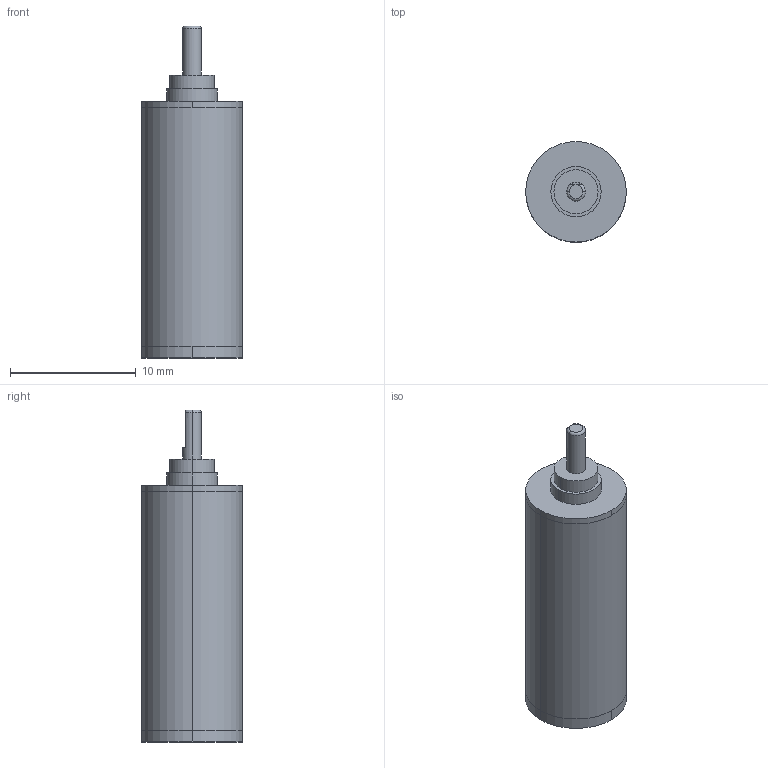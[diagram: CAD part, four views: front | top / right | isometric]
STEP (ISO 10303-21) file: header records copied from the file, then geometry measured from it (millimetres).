
FILE_DESCRIPTION (( 'STEP AP203' ), '1' );
FILE_NAME ('IG-08(I)-5stage.STEP', '2023-03-23T01:46:47', ( '' ), ( '' ), 'SwSTEP 2.0', 'SolidWorks 2019', '' );
FILE_SCHEMA (( 'CONFIG_CONTROL_DESIGN' ));
Length unit declared in the file: millimetre
Products named in the file (1): IG-08(I)-5stage
Bounding box: 8 x 8 x 26.4 mm (x, y, z)
Volume: 1101.2 mm3; surface area: 929.6 mm2
Topology: 3 solids, 3 shells, 35 faces, 66 edges, 43 vertices
Faces by surface type: cylinder 18, plane 14, torus 3
Entity records: 982 total; most frequent: DIRECTION 179, CARTESIAN_POINT 159, ORIENTED_EDGE 132, AXIS2_PLACEMENT_3D 79, EDGE_CURVE 66, CIRCLE 43, VERTEX_POINT 43, EDGE_LOOP 41
